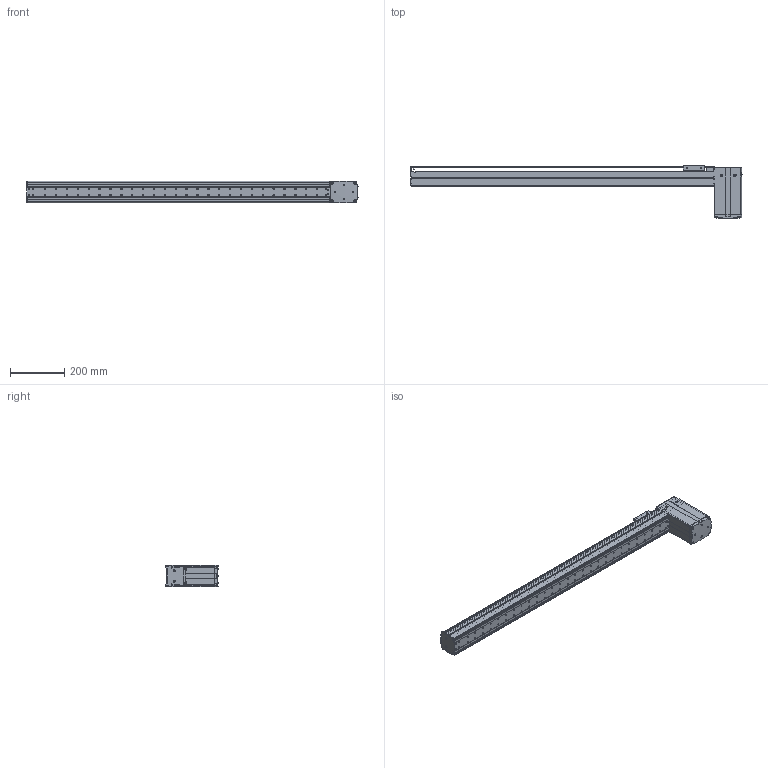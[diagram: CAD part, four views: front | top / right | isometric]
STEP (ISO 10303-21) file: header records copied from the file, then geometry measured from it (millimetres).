
FILE_DESCRIPTION((''),'2;1');
FILE_NAME('BE10_-BU-S_N-95_IGS_PRT','2017-06-18T',(' '),(''),'PRO/ENGINEER BY PARAMETRIC TECHNOLOGY CORPORATION, 2015030','PRO/ENGINEER BY PARAMETRIC TECHNOLOGY CORPORATION, 2015030','');
FILE_SCHEMA(('CONFIG_CONTROL_DESIGN'));
Products named in the file (1): BE10_-BU-S_N-95_IGS_PRT
Bounding box: 1220.8 x 192.72 x 78 mm (x, y, z)
Volume: 1455544.9 mm3; surface area: 1044475.1 mm2
Topology: 3 solids, 138 shells, 1979 faces, 5389 edges, 3559 vertices
Faces by surface type: plane 922, cylinder 896, cone 119, sphere 21, torus 19, bspline 2
Entity records: 64148 total; most frequent: CARTESIAN_POINT 12956, DIRECTION 10903, ORIENTED_EDGE 10190, EDGE_CURVE 5335, AXIS2_PLACEMENT_3D 3911, VERTEX_POINT 3559, VECTOR 3081, LINE 3081
